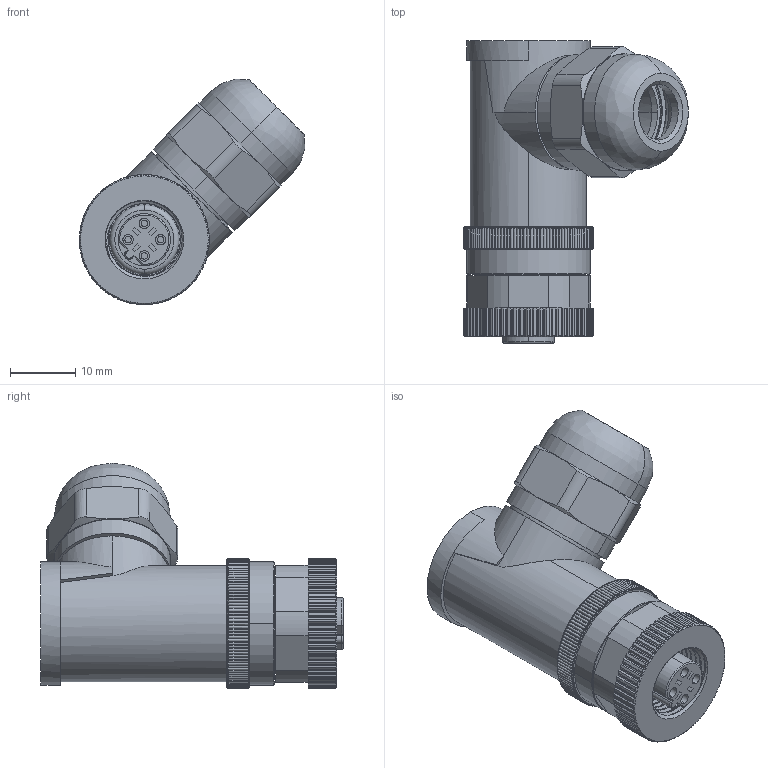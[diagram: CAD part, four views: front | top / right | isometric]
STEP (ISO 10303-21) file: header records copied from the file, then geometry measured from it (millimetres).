
FILE_DESCRIPTION((''),'2;1');
FILE_NAME('XC-M12P-RWK-PG9','2025-06-23T15:35:00',('lyj'),(''),'CREO PARAMETRIC BY PTC INC, 2019010','CREO PARAMETRIC BY PTC INC, 2019010','');
FILE_SCHEMA(('CONFIG_CONTROL_DESIGN'));
Length unit declared in the file: millimetre
Products named in the file (1): XC-M12P-RWK-PG9
Bounding box: 34.66 x 46.5 x 34.66 mm (x, y, z)
Volume: 10406.1 mm3; surface area: 13022.2 mm2
Topology: 1 solids, 9 shells, 1674 faces, 4417 edges, 2810 vertices
Faces by surface type: cylinder 795, plane 402, cone 369, bspline 51, extrusion 29, torus 28
Entity records: 81789 total; most frequent: CARTESIAN_POINT 42053, ORIENTED_EDGE 8834, DIRECTION 7673, EDGE_CURVE 4417, AXIS2_PLACEMENT_3D 3041, VERTEX_POINT 2810, EDGE_LOOP 1759, FACE_OUTER_BOUND 1674
